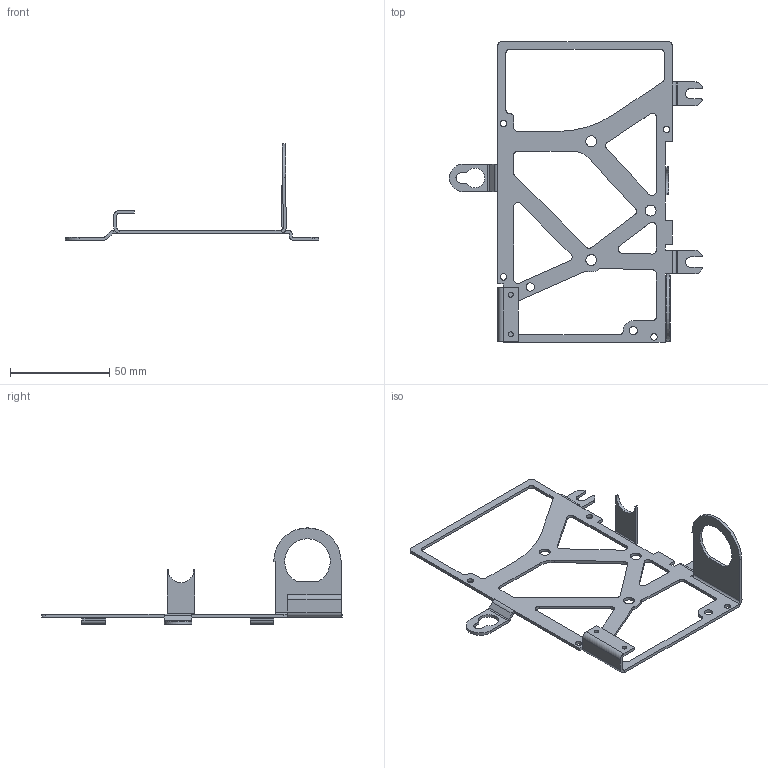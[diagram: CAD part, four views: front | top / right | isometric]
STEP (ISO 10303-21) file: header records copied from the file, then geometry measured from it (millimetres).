
FILE_DESCRIPTION( ( 'Unknown' ), '1' );
FILE_NAME( 'C:/workcenter/Knörck/daten4/03204715_Halteblech_00957935.stp', 'Unknown', ( 'Knörck' ), ( 'AQUAROTTER' ), 'XStep 1.0', 'Unknown', ' ' );
FILE_SCHEMA( ( 'CONFIG_CONTROL_DESIGN' ) );
Length unit declared in the file: millimetre
Products named in the file (1): 1
Bounding box: 127.87 x 152 x 48.6 mm (x, y, z)
Volume: 10985.1 mm3; surface area: 17512.6 mm2
Topology: 1 solids, 1 shells, 172 faces, 499 edges, 329 vertices
Faces by surface type: plane 93, cylinder 79
Full cylindrical faces by diameter (mm): 2.459 x2, 3.2 x4, 4.2 x2, 5.5 x3
Entity records: 5678 total; most frequent: DIRECTION 983, CARTESIAN_POINT 972, ORIENTED_EDGE 958, EDGE_CURVE 479, AXIS2_PLACEMENT_3D 331, LINE 321, VECTOR 321, VERTEX_POINT 320
